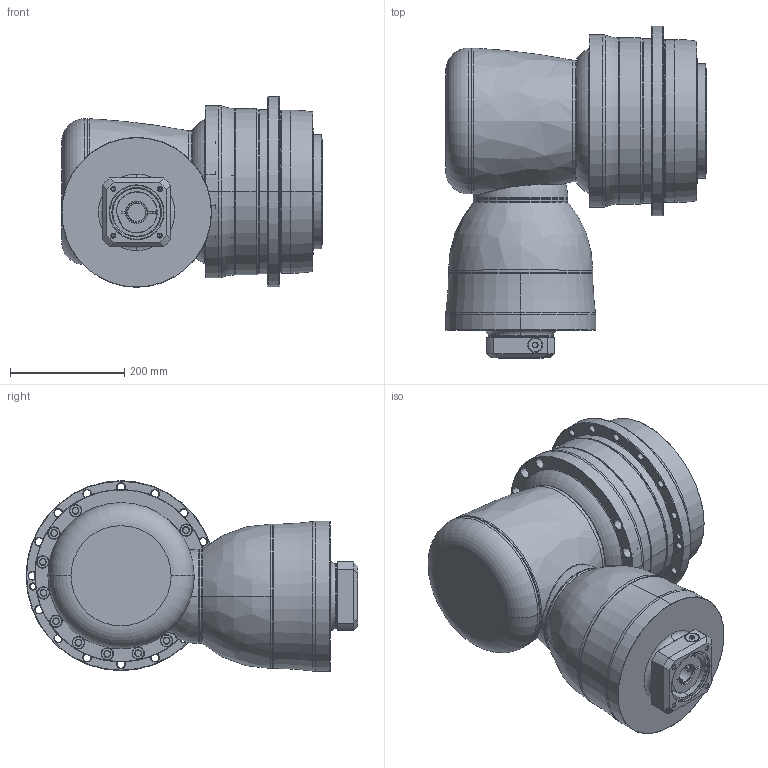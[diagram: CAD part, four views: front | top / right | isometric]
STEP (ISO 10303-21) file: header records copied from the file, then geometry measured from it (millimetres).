
FILE_DESCRIPTION((''),'2;1');
FILE_NAME('AHKB285_3ST_32-P0409700101_ASM','2016-12-02T',('d01943'),(''),'PRO/ENGINEER BY PARAMETRIC TECHNOLOGY CORPORATION, 2008410','PRO/ENGINEER BY PARAMETRIC TECHNOLOGY CORPORATION, 2008410','');
FILE_SCHEMA(('CONFIG_CONTROL_DESIGN'));
Length unit declared in the file: millimetre
Products named in the file (12): P1008700002; P1802800001; P0278800003; P0359800003; P1315700001; P1007700001; P1317700001; P0409700101; P0503700010; P0912600001; 21711418017; AHKB285_3ST_32-P0409700101_ASM
Assembly tree (11 placements, depth 2):
  AHKB285_3ST_32-P0409700101_ASM
    P1008700002
    P1802800001
    P0278800003
    P0359800003
    P1315700001
    P1007700001
    P1317700001
    P0409700101
    P0503700010
    P0912600001
    21711418017
Bounding box: 455.5 x 580 x 333 mm (x, y, z)
Volume: 26212246.8 mm3; surface area: 1799487.5 mm2
Topology: 12 solids, 12 shells, 1025 faces, 2326 edges, 1341 vertices
Faces by surface type: cylinder 369, cone 362, plane 138, torus 124, bspline 30, sphere 2
Entity records: 35918 total; most frequent: CARTESIAN_POINT 12350, DIRECTION 5426, ORIENTED_EDGE 4488, AXIS2_PLACEMENT_3D 2303, EDGE_CURVE 2244, VERTEX_POINT 1341, CIRCLE 1285, EDGE_LOOP 1219
